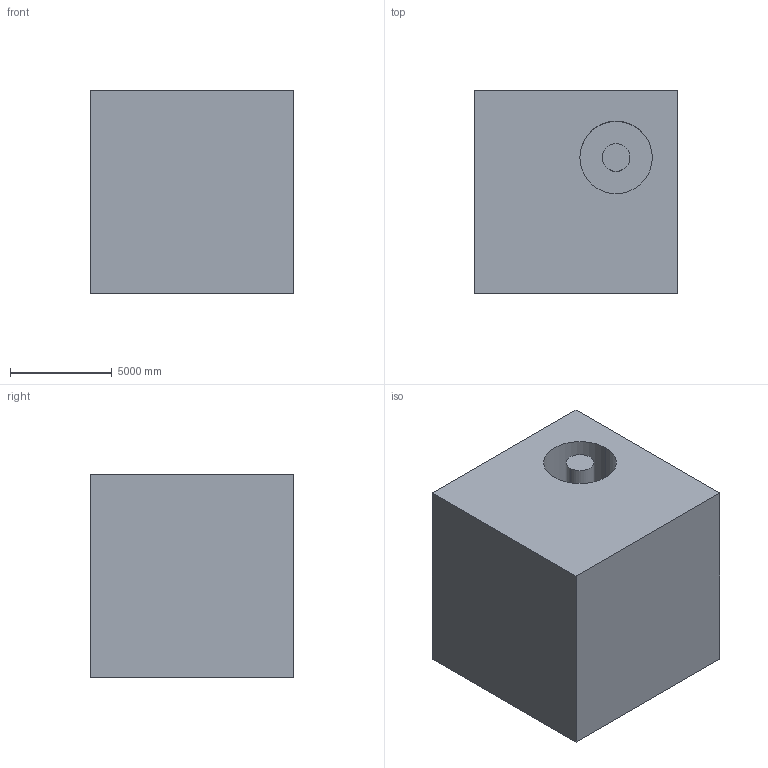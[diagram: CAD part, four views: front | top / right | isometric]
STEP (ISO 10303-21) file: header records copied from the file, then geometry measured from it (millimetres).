
FILE_DESCRIPTION (( 'STEP AP203' ), '1' );
FILE_NAME ('226.STEP', '2022-09-07T12:21:26', ( 'user' ), ( '' ), 'SwSTEP 2.0', 'SolidWorks 2021', '' );
FILE_SCHEMA (( 'CONFIG_CONTROL_DESIGN' ));
Length unit declared in the file: centimetre
Products named in the file (1): 226
Bounding box: 10000 x 10000 x 10000 mm (x, y, z)
Volume: 895247997009.2 mm3; surface area: 776224503 mm2
Topology: 1 solids, 1 shells, 19 faces, 42 edges, 28 vertices
Faces by surface type: plane 15, cylinder 4
Entity records: 601 total; most frequent: CARTESIAN_POINT 90, DIRECTION 90, ORIENTED_EDGE 84, EDGE_CURVE 42, LINE 34, VECTOR 34, AXIS2_PLACEMENT_3D 28, VERTEX_POINT 28
